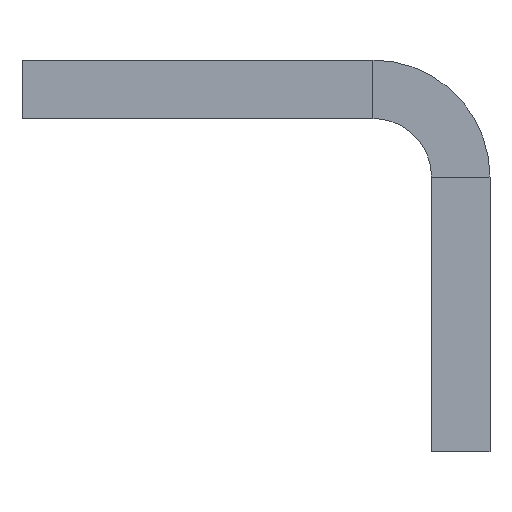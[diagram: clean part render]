
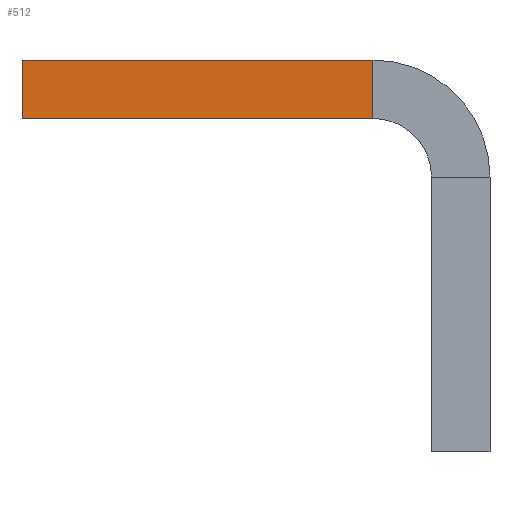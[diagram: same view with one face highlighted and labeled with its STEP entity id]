
A CAD part, front view. The second image highlights one B-rep face of the part: STEP entity #512.
In plain terms, the highlighted planar face has unit normal (0, -1, 0).
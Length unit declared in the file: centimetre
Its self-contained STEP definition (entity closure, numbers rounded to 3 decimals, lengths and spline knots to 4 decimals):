
#74=FACE_OUTER_BOUND('',#105,.T.);
#105=EDGE_LOOP('',(#423,#424,#425,#426));
#154=LINE('',#837,#204);
#156=LINE('',#840,#206);
#159=LINE('',#850,#209);
#160=LINE('',#851,#210);
#204=VECTOR('',#688,0.14);
#206=VECTOR('',#692,1.);
#209=VECTOR('',#703,1.);
#210=VECTOR('',#704,1.);
#249=VERTEX_POINT('',#817);
#256=VERTEX_POINT('',#834);
#257=VERTEX_POINT('',#836);
#260=VERTEX_POINT('',#849);
#316=EDGE_CURVE('',#257,#256,#154,.T.);
#318=EDGE_CURVE('',#256,#249,#156,.T.);
#323=EDGE_CURVE('',#260,#249,#159,.T.);
#324=EDGE_CURVE('',#257,#260,#160,.T.);
#423=ORIENTED_EDGE('',*,*,#318,.T.);
#424=ORIENTED_EDGE('',*,*,#323,.F.);
#425=ORIENTED_EDGE('',*,*,#324,.F.);
#426=ORIENTED_EDGE('',*,*,#316,.T.);
#485=PLANE('',#574);
#512=ADVANCED_FACE('',(#74),#485,.T.);
#574=AXIS2_PLACEMENT_3D('',#848,#701,#702);
#688=DIRECTION('',(1.,0.,0.));
#692=DIRECTION('',(0.,0.,1.));
#701=DIRECTION('center_axis',(0.,-1.,0.));
#702=DIRECTION('ref_axis',(1.,0.,0.));
#703=DIRECTION('',(1.,0.,0.));
#704=DIRECTION('',(0.,0.,1.));
#817=CARTESIAN_POINT('',(17.485,-3.2,3.85));
#834=CARTESIAN_POINT('',(17.485,-3.2,3.75));
#836=CARTESIAN_POINT('',(16.885,-3.2,3.75));
#837=CARTESIAN_POINT('',(17.9248,-3.2,3.75));
#840=CARTESIAN_POINT('',(17.485,-3.2,3.77));
#848=CARTESIAN_POINT('Origin',(16.885,-3.2,3.75));
#849=CARTESIAN_POINT('',(16.885,-3.2,3.85));
#850=CARTESIAN_POINT('',(17.485,-3.2,3.85));
#851=CARTESIAN_POINT('',(16.885,-3.2,3.75));
